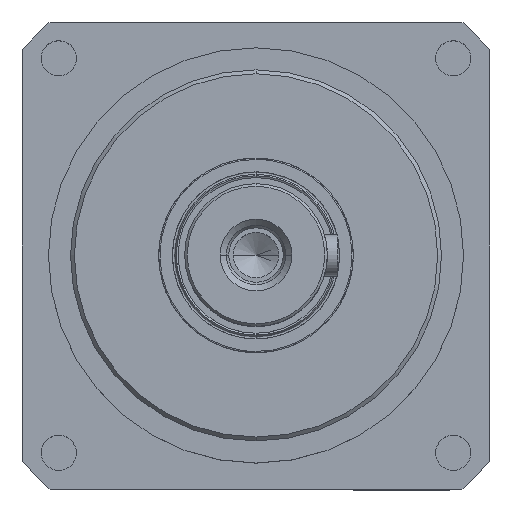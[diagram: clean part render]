
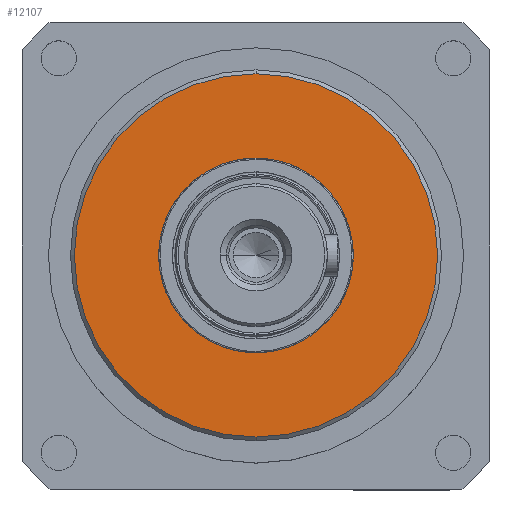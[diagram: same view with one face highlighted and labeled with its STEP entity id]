
A CAD part, top view. The second image highlights one B-rep face of the part: STEP entity #12107.
In plain terms, the highlighted planar face has unit normal (0, 0, 1).
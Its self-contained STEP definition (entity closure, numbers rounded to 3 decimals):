
#1702 = VERTEX_POINT ( 'NONE', #18945 ) ;
#2179 = AXIS2_PLACEMENT_3D ( 'NONE', #3514, #6606, #19491 ) ;
#2648 = FACE_BOUND ( 'NONE', #3178, .T. ) ;
#2995 = CARTESIAN_POINT ( 'NONE',  ( 0., 70., 0. ) ) ;
#3178 = EDGE_LOOP ( 'NONE', ( #16285, #19043 ) ) ;
#3514 = CARTESIAN_POINT ( 'NONE',  ( 0., 70., 0. ) ) ;
#4517 = CARTESIAN_POINT ( 'NONE',  ( 0., -70., 0. ) ) ;
#5160 = EDGE_CURVE ( 'NONE', #5558, #8772, #6886, .T. ) ;
#5558 = VERTEX_POINT ( 'NONE', #4517 ) ;
#6606 = DIRECTION ( 'NONE',  ( 0., 0., -1. ) ) ;
#6886 = CIRCLE ( 'NONE', #10821, 70. ) ;
#6898 = ORIENTED_EDGE ( 'NONE', *, *, #5160, .F. ) ;
#7209 = DIRECTION ( 'NONE',  ( 0., 0., -1. ) ) ;
#8094 = DIRECTION ( 'NONE',  ( 0., 1., 0. ) ) ;
#8772 = VERTEX_POINT ( 'NONE', #2995 ) ;
#9061 = CARTESIAN_POINT ( 'NONE',  ( -37.5, 0., 0. ) ) ;
#9664 = DIRECTION ( 'NONE',  ( 0., 0., -1. ) ) ;
#9832 = DIRECTION ( 'NONE',  ( 0., 0., 1. ) ) ;
#10720 = DIRECTION ( 'NONE',  ( 1., 0., 0. ) ) ;
#10821 = AXIS2_PLACEMENT_3D ( 'NONE', #19396, #9664, #8094 ) ;
#11793 = CIRCLE ( 'NONE', #12219, 37.5 ) ;
#12107 = ADVANCED_FACE ( 'b?', ( #19371, #2648 ), #17871, .F. ) ;
#12219 = AXIS2_PLACEMENT_3D ( 'NONE', #13327, #9832, #18027 ) ;
#12436 = CARTESIAN_POINT ( 'NONE',  ( 0., 0., 0. ) ) ;
#13327 = CARTESIAN_POINT ( 'NONE',  ( 0., 0., 0. ) ) ;
#13780 = CARTESIAN_POINT ( 'NONE',  ( 0., 0., 0. ) ) ;
#13958 = EDGE_CURVE ( 'NONE', #8772, #5558, #20000, .T. ) ;
#14771 = EDGE_CURVE ( 'NONE', #1702, #15053, #11793, .T. ) ;
#14809 = AXIS2_PLACEMENT_3D ( 'NONE', #12436, #17145, #10720 ) ;
#15053 = VERTEX_POINT ( 'NONE', #9061 ) ;
#15430 = DIRECTION ( 'NONE',  ( 0., 1., 0. ) ) ;
#16060 = EDGE_LOOP ( 'NONE', ( #17243, #6898 ) ) ;
#16285 = ORIENTED_EDGE ( 'NONE', *, *, #14771, .F. ) ;
#16434 = AXIS2_PLACEMENT_3D ( 'NONE', #13780, #7209, #15430 ) ;
#17145 = DIRECTION ( 'NONE',  ( 0., 0., 1. ) ) ;
#17243 = ORIENTED_EDGE ( 'NONE', *, *, #13958, .F. ) ;
#17425 = CIRCLE ( 'NONE', #14809, 37.5 ) ;
#17871 = PLANE ( 'NONE',  #2179 ) ;
#18027 = DIRECTION ( 'NONE',  ( 1., 0., 0. ) ) ;
#18047 = EDGE_CURVE ( 'NONE', #15053, #1702, #17425, .T. ) ;
#18945 = CARTESIAN_POINT ( 'NONE',  ( 37.5, 0., 0. ) ) ;
#19043 = ORIENTED_EDGE ( 'NONE', *, *, #18047, .F. ) ;
#19371 = FACE_OUTER_BOUND ( 'NONE', #16060, .T. ) ;
#19396 = CARTESIAN_POINT ( 'NONE',  ( 0., 0., 0. ) ) ;
#19491 = DIRECTION ( 'NONE',  ( -1., 0., 0. ) ) ;
#20000 = CIRCLE ( 'NONE', #16434, 70. ) ;
